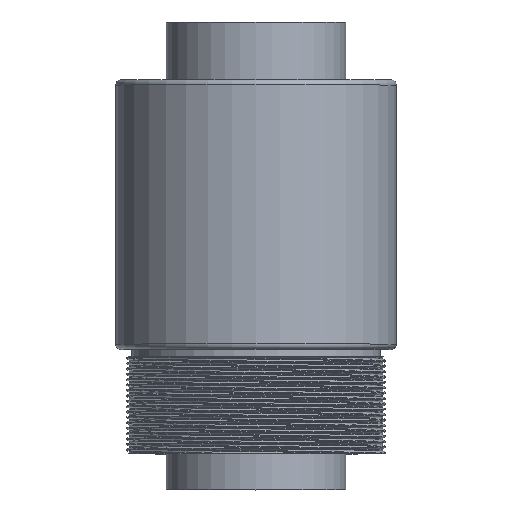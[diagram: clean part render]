
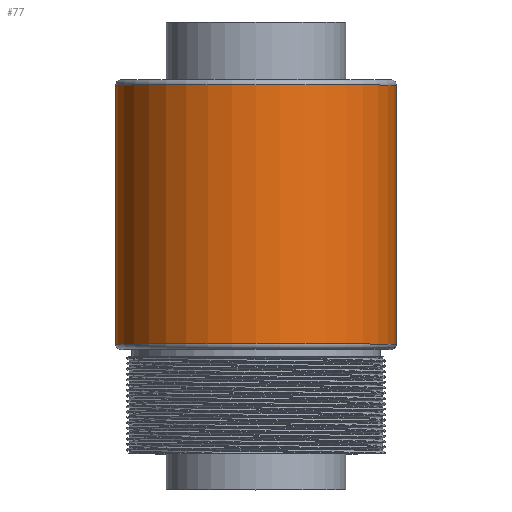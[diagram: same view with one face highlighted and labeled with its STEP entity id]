
A CAD part, top view. The second image highlights one B-rep face of the part: STEP entity #77.
In plain terms, the highlighted cylindrical face has radius 39 mm (diameter 78 mm), a full revolution.
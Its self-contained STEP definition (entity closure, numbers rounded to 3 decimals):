
#77=ADVANCED_FACE('',(#108,#109),#99,.T.);
#99=CYLINDRICAL_SURFACE('',#330,39.);
#108=FACE_BOUND('',#146,.T.);
#109=FACE_BOUND('',#147,.T.);
#146=EDGE_LOOP('',(#188));
#147=EDGE_LOOP('',(#189));
#188=ORIENTED_EDGE('',*,*,#272,.T.);
#189=ORIENTED_EDGE('',*,*,#273,.T.);
#246=VERTEX_POINT('',#466);
#247=VERTEX_POINT('',#468);
#272=EDGE_CURVE('',#246,#246,#302,.T.);
#273=EDGE_CURVE('',#247,#247,#303,.T.);
#302=CIRCLE('',#328,39.);
#303=CIRCLE('',#329,39.);
#328=AXIS2_PLACEMENT_3D('',#465,#379,#380);
#329=AXIS2_PLACEMENT_3D('',#467,#381,#382);
#330=AXIS2_PLACEMENT_3D('',#469,#383,#384);
#379=DIRECTION('',(0.,1.,0.));
#380=DIRECTION('',(0.,0.,-1.));
#381=DIRECTION('',(0.,-1.,0.));
#382=DIRECTION('',(0.,0.,1.));
#383=DIRECTION('',(0.,1.,0.));
#384=DIRECTION('',(0.,0.,1.));
#465=CARTESIAN_POINT('',(0.,30.5,0.));
#466=CARTESIAN_POINT('',(0.,30.5,-39.));
#467=CARTESIAN_POINT('',(0.,102.5,0.));
#468=CARTESIAN_POINT('',(0.,102.5,39.));
#469=CARTESIAN_POINT('',(0.,0.,0.));
